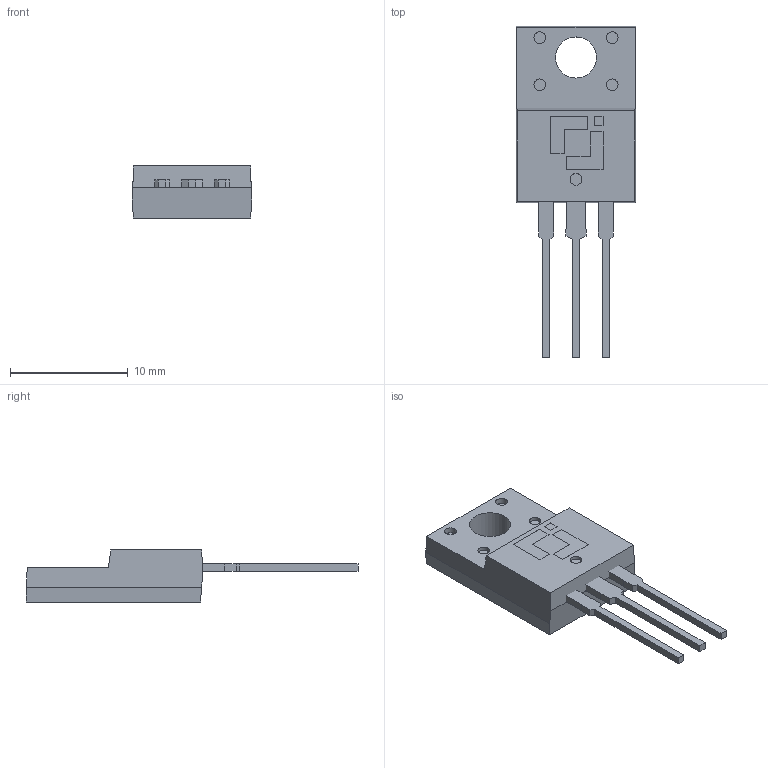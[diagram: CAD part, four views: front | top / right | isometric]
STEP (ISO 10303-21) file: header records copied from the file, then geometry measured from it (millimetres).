
FILE_DESCRIPTION(('HOOPS Exchange Step'),'2;1');
FILE_NAME('C:\Users\Administrator\AppData\Local\Packages\Shapr3D.Shapr3D_j403pzjkqtqbj\TempState\export\temp_export','2025-12-04T09:20:56+08:00',('Administrator'),('Shapr3D Limited'),'HOOPS Exchange 2025.7','Shapr3D','Authorized');
FILE_SCHEMA( ('AP242_MANAGED_MODEL_BASED_3D_ENGINEERING_MIM_LF {1 0 10303 442 1 1 4}') );
Length unit declared in the file: millimetre
Products named in the file (1): root
Bounding box: 10.14 x 28.2 x 4.42 mm (x, y, z)
Volume: 545.4 mm3; surface area: 643.4 mm2
Topology: 4 solids, 4 shells, 93 faces, 222 edges, 148 vertices
Faces by surface type: plane 84, cylinder 9
Full cylindrical faces by diameter (mm): 1 x8, 3.49 x1
Entity records: 2715 total; most frequent: CARTESIAN_POINT 465, ORIENTED_EDGE 444, DIRECTION 430, EDGE_CURVE 222, VECTOR 204, LINE 204, VERTEX_POINT 148, AXIS2_PLACEMENT_3D 113
